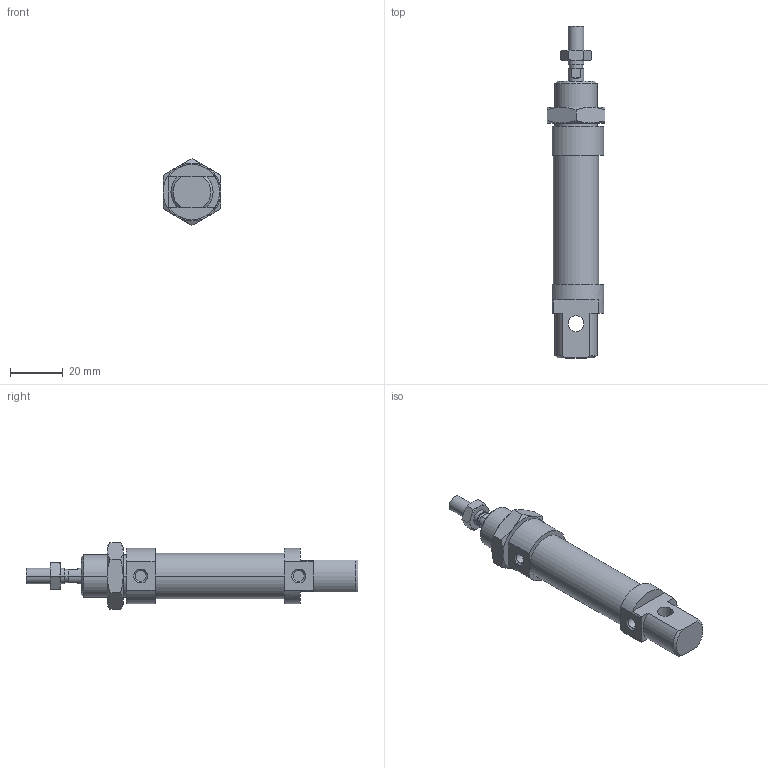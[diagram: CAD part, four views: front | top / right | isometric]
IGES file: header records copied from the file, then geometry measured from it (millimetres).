
Global section: file name: No Iges File Name specified; native system: Autodesk Inventor 2010; preprocessor: AutoDesk Inventor Iges Exporter R2010; author: rivolro1; date: 20090604.093209; units: millimetre
Bounding box: 22 x 126 x 25.4 mm (x, y, z)
Volume: 26346.2 mm3; surface area: 10422.8 mm2
Topology: 4 solids, 4 shells, 107 faces, 236 edges, 144 vertices
Faces by surface type: plane 39, cone 28, bspline 20, cylinder 14, revolution 6
